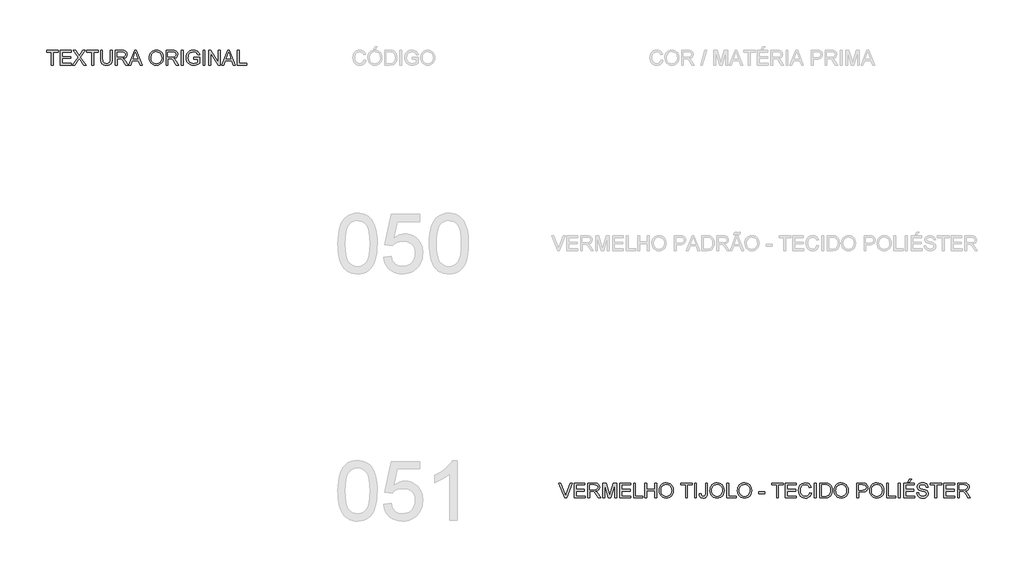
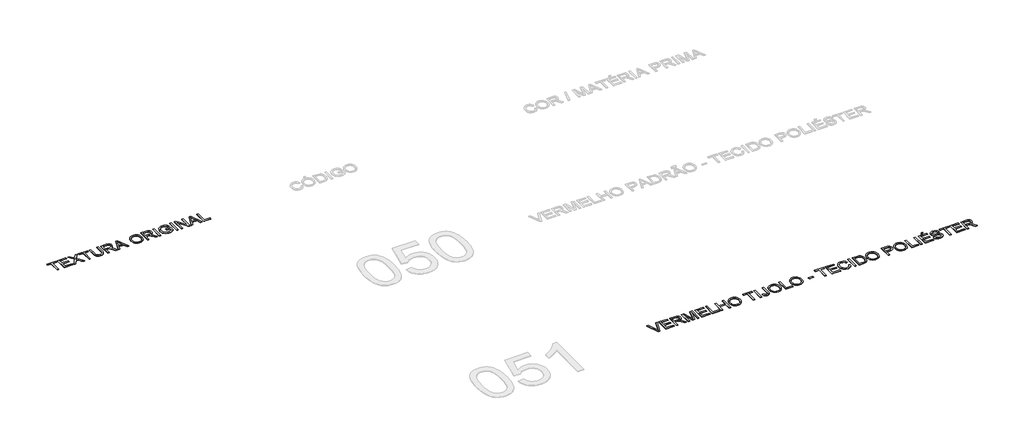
# One storey, part 24 of 35: 2 proxies.
"""IFC4 building model written with IfcOpenShell, lengths in millimetres."""

from ifc_helpers import new_model, si_unit, origin, origin_with_axes, place, context, project, spatial, polyline, outline, extrude, element, save

model = new_model("IFC4")

# Units and contexts
model_context = context("Model", 3, world=origin())
ifc_project = project(units=[si_unit("LENGTHUNIT", "METRE", prefix="MILLI")], contexts=[model_context])

# Site, building, storey
site = spatial("IfcSite", under=ifc_project)
building = spatial("IfcBuilding", under=site)
storey = spatial("IfcBuildingStorey", under=building, Name="Marelli - Linha YOU - Planta Baixa", Elevation=0.0)

# Proxies
placement = place(None, origin())
element("IfcBuildingElementProxy", 1, Name="300mm Arial", ObjectType="300mm Arial", at=placement, inside=storey, context=model_context, shape_type="SweptSolid", body=[
    extrude(outline(polyline([(-31021.6681618, -16280.5663201), (-31021.6681618, -16016.8685059), (-31120.5548421, -16016.8685059), (-31120.5548421, -15979.1973896), (-30885.1103652, -15979.1973896), (-30885.1103652, -16016.8685059), (-30983.9970455, -16016.8685059), (-30983.9970455, -16280.5663201), (-31021.6681618, -16280.5663201)])), origin_with_axes(), (0.0, 0.0, 1.0), 10.0),
    extrude(outline(polyline([(-30842.7303593, -16280.5663201), (-30842.7303593, -15979.1973896), (-30626.1214406, -15979.1973896), (-30626.1214406, -16016.8685059), (-30805.059243, -16016.8685059), (-30805.059243, -16106.3374072), (-30635.5392196, -16106.3374072), (-30635.5392196, -16144.0085235), (-30805.059243, -16144.0085235), (-30805.059243, -16242.8952038), (-30621.412551, -16242.8952038), (-30621.412551, -16280.5663201), (-30842.7303593, -16280.5663201)])), origin_with_axes(), (0.0, 0.0, 1.0), 10.0),
    extrude(outline(polyline([(-30597.8681033, -16280.5663201), (-30481.6909693, -16116.3437974), (-30579.0325452, -15979.1973896), (-30533.8566362, -15979.1973896), (-30479.0422189, -16056.3790322), (-30460.5745427, -16086.4717794), (-30438.9430814, -16055.8639974), (-30384.7172753, -15979.1973896), (-30338.8791787, -15979.1973896), (-30436.2207547, -16116.7852558), (-30320.0436206, -16280.5663201), (-30365.2195296, -16280.5663201), (-30442.6219014, -16171.3789439), (-30458.7351328, -16148.717413), (-30476.4670449, -16173.5862359), (-30552.0300067, -16280.5663201), (-30597.8681033, -16280.5663201)])), origin_with_axes(), (0.0, 0.0, 1.0), 10.0),
    extrude(outline(polyline([(-30207.0302717, -16280.5663201), (-30207.0302717, -16016.8685059), (-30305.916952, -16016.8685059), (-30305.916952, -15979.1973896), (-30070.4724751, -15979.1973896), (-30070.4724751, -16016.8685059), (-30169.3591554, -16016.8685059), (-30169.3591554, -16280.5663201), (-30207.0302717, -16280.5663201)])), origin_with_axes(), (0.0, 0.0, 1.0), 10.0),
    extrude(outline(polyline([(-29830.3191086, -15979.1973896), (-29792.6479923, -15979.1973896), (-29792.6479923, -16153.0584205), (-29795.2047722, -16193.7737604), (-29802.8751118, -16225.1265034), (-29817.2041155, -16249.3147446), (-29839.7368877, -16268.5365788), (-29870.5286107, -16281.0905519), (-29909.6344668, -16285.2752096), (-29947.8849972, -16281.6331779), (-29978.4651881, -16270.7070826), (-30001.3842364, -16252.8740029), (-30016.6513392, -16228.5110178), (-30025.2321867, -16195.8338995), (-30028.0924692, -16153.0584205), (-30028.0924692, -15979.1973896), (-29990.4213529, -15979.1973896), (-29990.4213529, -16151.7340454), (-29988.5635488, -16185.588386), (-29982.9901366, -16209.1604248), (-29972.8917758, -16225.4851883), (-29957.4591261, -16237.597703), (-29937.335981, -16245.1024957), (-29913.1661339, -16247.6040933), (-29874.8512241, -16242.6560805), (-29860.5084248, -16236.4710644), (-29849.375396, -16227.812042), (-29841.0382702, -16215.6351479), (-29835.0831804, -16198.8965171), (-29830.3191086, -16151.7340454), (-29830.3191086, -15979.1973896)])), origin_with_axes(), (0.0, 0.0, 1.0), 10.0),
    extrude(outline(polyline([(-29726.7235388, -16280.5663201), (-29726.7235388, -15979.1973896), (-29596.8611945, -15979.1973896), (-29561.9583902, -15981.2299376), (-29536.5653355, -15987.3275817), (-29518.0056888, -15998.5847708), (-29503.6031087, -16016.0959537), (-29494.3600736, -16037.8101885), (-29491.2790618, -16061.6765329), (-29496.3834245, -16091.3646099), (-29511.6965126, -16115.9759154), (-29523.2962917, -16126.0052983), (-29537.6781785, -16134.0205273), (-29574.7882748, -16144.0085235), (-29553.3775426, -16160.1217548), (-29522.843337, -16198.8965171), (-29472.5906565, -16280.5663201), (-29516.3686139, -16280.5663201), (-29555.5848346, -16218.0999573), (-29583.9117482, -16176.750021), (-29603.8141642, -16157.2154871), (-29621.7300173, -16150.0417882), (-29643.5822079, -16148.717413), (-29689.0524225, -16148.717413), (-29689.0524225, -16280.5663201), (-29726.7235388, -16280.5663201)]), holes=[polyline([(-29689.0524225, -16111.0462967), (-29604.7338692, -16111.0462967), (-29580.5180368, -16109.7127245), (-29561.7284639, -16105.7120078), (-29547.5834012, -16098.7774322), (-29537.3010994, -16088.6422832), (-29531.0379085, -16076.3826157), (-29528.9501782, -16063.0744845), (-29532.9325008, -16044.6987789), (-29544.8794685, -16029.8915286), (-29565.434875, -16020.1242616), (-29595.2425137, -16016.8685059), (-29689.0524225, -16016.8685059), (-29689.0524225, -16111.0462967)])]), origin_with_axes(), (0.0, 0.0, 1.0), 10.0),
    extrude(outline(polyline([(-29460.4505507, -16280.5663201), (-29340.1531382, -15979.1973896), (-29308.0738283, -15979.1973896), (-29187.7764158, -16280.5663201), (-29227.5812477, -16280.5663201), (-29262.0885789, -16186.3885293), (-29386.211964, -16186.3885293), (-29420.6457188, -16280.5663201), (-29460.4505507, -16280.5663201)]), holes=[polyline([(-29372.379601, -16148.717413), (-29275.8473655, -16148.717413), (-29302.9970567, -16074.6259792), (-29324.1134832, -16016.8685059), (-29342.875465, -16068.1512561), (-29372.379601, -16148.717413)])]), origin_with_axes(), (0.0, 0.0, 1.0), 10.0),
    extrude(outline(polyline([(-29043.9345557, -16133.8549804), (-29041.4237611, -16098.5061192), (-29033.8913772, -16067.213157), (-29021.3374042, -16039.9760937), (-29003.7618418, -16016.7949295), (-28982.2177525, -15998.2858666), (-28957.7581983, -15985.0651074), (-28930.3831794, -15977.1326519), (-28900.0926956, -15974.4885001), (-28860.5637752, -15979.454907), (-28825.118345, -15994.3541278), (-28795.6877854, -16018.1376988), (-28774.2034768, -16049.7571563), (-28761.0700896, -16087.68579), (-28756.6922939, -16130.3968896), (-28761.3000159, -16173.6782064), (-28775.1231818, -16212.140269), (-28797.3984366, -16243.8149087), (-28827.3624252, -16266.733957), (-28862.5043527, -16280.6398965), (-28900.3134248, -16285.2752096), (-28940.4493505, -16280.1524528), (-28976.0971158, -16264.7841825), (-29005.454099, -16240.5591531), (-29026.7176783, -16208.8661192), (-29039.6303364, -16172.3998164), (-29043.9345557, -16133.8549804)]), holes=[polyline([(-29006.2634394, -16134.2228624), (-29004.3803434, -16159.1974513), (-28998.7310556, -16181.3669401), (-28989.3155757, -16200.7313286), (-28976.133904, -16217.2906169), (-28960.1103438, -16230.5527628), (-28942.1691988, -16240.0257242), (-28922.3104688, -16245.709501), (-28900.534154, -16247.6040933), (-28878.3853586, -16245.6911069), (-28858.2921039, -16239.9521478), (-28840.2543898, -16230.3872159), (-28824.2722164, -16216.9963113), (-28811.1871137, -16200.0875351), (-28801.8406117, -16179.9689885), (-28796.2327106, -16156.6406715), (-28794.3634102, -16130.102584), (-28797.5639835, -16096.7540812), (-28807.1657036, -16067.9305269), (-28822.9202501, -16044.358488), (-28844.5793025, -16026.7645316), (-28870.7081212, -16015.8108452), (-28899.8719664, -16012.1596164), (-28920.8918239, -16013.9185522), (-28940.3941682, -16019.1953595), (-28958.3789992, -16027.9900385), (-28974.846317, -16040.302589), (-28988.5913081, -16056.7262208), (-28998.4091588, -16077.8541437), (-29004.2998693, -16103.6863575), (-29006.2634394, -16134.2228624)])]), origin_with_axes(), (0.0, 0.0, 1.0), 10.0),
    extrude(outline(polyline([(-28704.894509, -16280.5663201), (-28704.894509, -15979.1973896), (-28575.0321647, -15979.1973896), (-28540.1293604, -15981.2299376), (-28514.7363057, -15987.3275817), (-28496.176659, -15998.5847708), (-28481.7740789, -16016.0959537), (-28472.5310438, -16037.8101885), (-28469.450032, -16061.6765329), (-28474.5543947, -16091.3646099), (-28489.8674828, -16115.9759154), (-28501.4672619, -16126.0052983), (-28515.8491487, -16134.0205273), (-28552.959245, -16144.0085235), (-28531.5485128, -16160.1217548), (-28501.0143072, -16198.8965171), (-28450.7616267, -16280.5663201), (-28494.5395841, -16280.5663201), (-28533.7558048, -16218.0999573), (-28562.0827184, -16176.750021), (-28581.9851344, -16157.2154871), (-28599.9009875, -16150.0417882), (-28621.753178, -16148.717413), (-28667.2233927, -16148.717413), (-28667.2233927, -16280.5663201), (-28704.894509, -16280.5663201)]), holes=[polyline([(-28667.2233927, -16111.0462967), (-28582.9048394, -16111.0462967), (-28558.689007, -16109.7127245), (-28539.8994341, -16105.7120078), (-28525.7543714, -16098.7774322), (-28515.4720696, -16088.6422832), (-28509.2088787, -16076.3826157), (-28507.1211484, -16063.0744845), (-28511.1034709, -16044.6987789), (-28523.0504387, -16029.8915286), (-28543.6058452, -16020.1242616), (-28573.4134839, -16016.8685059), (-28667.2233927, -16016.8685059), (-28667.2233927, -16111.0462967)])]), origin_with_axes(), (0.0, 0.0, 1.0), 10.0),
    extrude(outline(polyline([(-28398.816689, -16280.5663201), (-28398.816689, -15979.1973896), (-28361.1455727, -15979.1973896), (-28361.1455727, -16280.5663201), (-28398.816689, -16280.5663201)])), origin_with_axes(), (0.0, 0.0, 1.0), 10.0),
    extrude(outline(polyline([(-28144.5366539, -16162.8440816), (-28144.5366539, -16125.1729653), (-28022.1055259, -16125.1729653), (-28022.1055259, -16237.8184322), (-28051.8579823, -16258.5117945), (-28082.5485377, -16273.355833), (-28114.1036159, -16282.2953654), (-28146.4496403, -16285.2752096), (-28188.7100845, -16280.5387289), (-28226.9054326, -16266.3292869), (-28258.6352547, -16243.1435241), (-28281.4991207, -16211.4780814), (-28295.3222867, -16173.4942654), (-28299.9300087, -16131.3533828), (-28295.3406808, -16088.9089976), (-28281.5726971, -16049.4260625), (-28259.1962748, -16016.3074859), (-28228.7816308, -15992.9561762), (-28191.7359139, -15979.1054191), (-28149.4662726, -15974.4885001), (-28118.4354263, -15977.1648416), (-28090.531577, -15985.1938661), (-28067.0331146, -15997.9961596), (-28049.218429, -16014.9923077), (-28036.0390565, -16037.0008481), (-28026.4465335, -16064.8403181), (-28061.1745938, -16074.6259792), (-28068.9277068, -16054.7695485), (-28078.354683, -16039.7875542), (-28090.8258826, -16028.493577), (-28107.7116662, -16019.7011973), (-28127.8440084, -16014.0450116), (-28150.0548838, -16012.1596164), (-28176.0549438, -16014.1921644), (-28198.2842134, -16020.2898085), (-28216.6599191, -16029.6891935), (-28231.0992874, -16041.6269642), (-28250.4866685, -16070.6528536), (-28259.3158364, -16099.0901318), (-28262.2588924, -16129.8082784), (-28258.7180282, -16165.8331228), (-28248.0954355, -16195.4752146), (-28230.7130113, -16218.5230216), (-28206.8926521, -16234.7650117), (-28179.0163939, -16244.3943229), (-28149.4662726, -16247.6040933), (-28123.3742421, -16245.1852692), (-28097.9260051, -16237.9287968), (-28075.8254943, -16227.9316036), (-28059.7766422, -16217.2906169), (-28059.7766422, -16162.8440816), (-28144.5366539, -16162.8440816)])), origin_with_axes(), (0.0, 0.0, 1.0), 10.0),
    extrude(outline(polyline([(-27956.1810724, -16280.5663201), (-27956.1810724, -15979.1973896), (-27918.5099561, -15979.1973896), (-27918.5099561, -16280.5663201), (-27956.1810724, -16280.5663201)])), origin_with_axes(), (0.0, 0.0, 1.0), 10.0),
    extrude(outline(polyline([(-27843.1677235, -16280.5663201), (-27843.1677235, -15979.1973896), (-27802.8478568, -15979.1973896), (-27645.3943628, -16217.9528045), (-27645.3943628, -15979.1973896), (-27607.7232465, -15979.1973896), (-27607.7232465, -16280.5663201), (-27648.0431132, -16280.5663201), (-27805.4966072, -16041.7373288), (-27805.4966072, -16280.5663201), (-27843.1677235, -16280.5663201)])), origin_with_axes(), (0.0, 0.0, 1.0), 10.0),
    extrude(outline(polyline([(-27576.8947353, -16280.5663201), (-27456.5973229, -15979.1973896), (-27424.5180129, -15979.1973896), (-27304.2206005, -16280.5663201), (-27344.0254324, -16280.5663201), (-27378.5327635, -16186.3885293), (-27502.6561487, -16186.3885293), (-27537.0899035, -16280.5663201), (-27576.8947353, -16280.5663201)]), holes=[polyline([(-27488.8237857, -16148.717413), (-27392.2915502, -16148.717413), (-27419.4412414, -16074.6259792), (-27440.5576679, -16016.8685059), (-27459.3196497, -16068.1512561), (-27488.8237857, -16148.717413)])]), origin_with_axes(), (0.0, 0.0, 1.0), 10.0),
    extrude(outline(polyline([(-27263.9743103, -16280.5663201), (-27263.9743103, -15979.1973896), (-27226.3031939, -15979.1973896), (-27226.3031939, -16242.8952038), (-27075.6187287, -16242.8952038), (-27075.6187287, -16280.5663201), (-27263.9743103, -16280.5663201)])), origin_with_axes(), (0.0, 0.0, 1.0), 10.0),
])
element("IfcBuildingElementProxy", 2, Name="300mm Arial", ObjectType="300mm Arial", at=placement, inside=storey, context=model_context, shape_type="SweptSolid", body=[
    extrude(outline(polyline([(-20641.1099124, -25030.5663201), (-20761.0394428, -24729.1973896), (-20720.7195762, -24729.1973896), (-20640.4477248, -24946.3213432), (-20624.1873406, -24995.2496485), (-20608.1476856, -24946.3213432), (-20527.6551051, -24729.1973896), (-20487.3352384, -24729.1973896), (-20602.1879973, -25030.5663201), (-20641.1099124, -25030.5663201)])), origin_with_axes(), (0.0, 0.0, 1.0), 10.0),
    extrude(outline(polyline([(-20452.3128725, -25030.5663201), (-20452.3128725, -24729.1973896), (-20235.7039537, -24729.1973896), (-20235.7039537, -24766.8685059), (-20414.6417562, -24766.8685059), (-20414.6417562, -24856.3374072), (-20245.1217328, -24856.3374072), (-20245.1217328, -24894.0085235), (-20414.6417562, -24894.0085235), (-20414.6417562, -24992.8952038), (-20230.9950642, -24992.8952038), (-20230.9950642, -25030.5663201), (-20452.3128725, -25030.5663201)])), origin_with_axes(), (0.0, 0.0, 1.0), 10.0),
    extrude(outline(polyline([(-20174.4883897, -25030.5663201), (-20174.4883897, -24729.1973896), (-20044.6260454, -24729.1973896), (-20009.7232411, -24731.2299376), (-19984.3301864, -24737.3275817), (-19965.7705398, -24748.5847708), (-19951.3679596, -24766.0959537), (-19942.1249245, -24787.8101885), (-19939.0439128, -24811.6765329), (-19944.1482755, -24841.3646099), (-19959.4613635, -24865.9759154), (-19971.0611427, -24876.0052983), (-19985.4430294, -24884.0205273), (-20022.5531257, -24894.0085235), (-20001.1423936, -24910.1217548), (-19970.608188, -24948.8965171), (-19920.3555074, -25030.5663201), (-19964.1334649, -25030.5663201), (-20003.3496856, -24968.0999573), (-20031.6765992, -24926.750021), (-20051.5790151, -24907.2154871), (-20069.4948683, -24900.0417882), (-20091.3470588, -24898.717413), (-20136.8172734, -24898.717413), (-20136.8172734, -25030.5663201), (-20174.4883897, -25030.5663201)]), holes=[polyline([(-20136.8172734, -24861.0462967), (-20052.4987201, -24861.0462967), (-20028.2828878, -24859.7127245), (-20009.4933149, -24855.7120078), (-19995.3482522, -24848.7774322), (-19985.0659504, -24838.6422832), (-19978.8027594, -24826.3826157), (-19976.7150291, -24813.0744845), (-19980.6973517, -24794.6987789), (-19992.6443195, -24779.8915286), (-20013.199726, -24770.1242616), (-20043.0073646, -24766.8685059), (-20136.8172734, -24766.8685059), (-20136.8172734, -24861.0462967)])]), origin_with_axes(), (0.0, 0.0, 1.0), 10.0),
    extrude(outline(polyline([(-19873.1194593, -25030.5663201), (-19873.1194593, -24729.1973896), (-19808.2986517, -24729.1973896), (-19746.6416293, -24941.6124536), (-19734.2072179, -24985.9790223), (-19720.7427369, -24937.9336337), (-19660.1157841, -24729.1973896), (-19595.2949765, -24729.1973896), (-19595.2949765, -25030.5663201), (-19632.9660928, -25030.5663201), (-19632.9660928, -24766.8685059), (-19708.6762074, -25030.5663201), (-19759.7382284, -25030.5663201), (-19835.448343, -24766.8685059), (-19835.448343, -25030.5663201), (-19873.1194593, -25030.5663201)])), origin_with_axes(), (0.0, 0.0, 1.0), 10.0),
    extrude(outline(polyline([(-19529.370523, -25030.5663201), (-19529.370523, -24729.1973896), (-19312.7616042, -24729.1973896), (-19312.7616042, -24766.8685059), (-19491.6994067, -24766.8685059), (-19491.6994067, -24856.3374072), (-19322.1793833, -24856.3374072), (-19322.1793833, -24894.0085235), (-19491.6994067, -24894.0085235), (-19491.6994067, -24992.8952038), (-19308.0527147, -24992.8952038), (-19308.0527147, -25030.5663201), (-19529.370523, -25030.5663201)])), origin_with_axes(), (0.0, 0.0, 1.0), 10.0),
    extrude(outline(polyline([(-19251.5460402, -25030.5663201), (-19251.5460402, -24729.1973896), (-19213.8749239, -24729.1973896), (-19213.8749239, -24992.8952038), (-19063.1904587, -24992.8952038), (-19063.1904587, -25030.5663201), (-19251.5460402, -25030.5663201)])), origin_with_axes(), (0.0, 0.0, 1.0), 10.0),
    extrude(outline(polyline([(-19020.8104528, -25030.5663201), (-19020.8104528, -24729.1973896), (-18983.1393365, -24729.1973896), (-18983.1393365, -24851.6285176), (-18823.0370922, -24851.6285176), (-18823.0370922, -24729.1973896), (-18785.3659759, -24729.1973896), (-18785.3659759, -25030.5663201), (-18823.0370922, -25030.5663201), (-18823.0370922, -24889.2996339), (-18983.1393365, -24889.2996339), (-18983.1393365, -25030.5663201), (-19020.8104528, -25030.5663201)])), origin_with_axes(), (0.0, 0.0, 1.0), 10.0),
    extrude(outline(polyline([(-18733.568191, -24883.8549804), (-18731.0573964, -24848.5061192), (-18723.5250125, -24817.213157), (-18710.9710395, -24789.9760937), (-18693.3954771, -24766.7949295), (-18671.8513878, -24748.2858666), (-18647.3918336, -24735.0651074), (-18620.0168147, -24727.1326519), (-18589.7263309, -24724.4885001), (-18550.1974105, -24729.454907), (-18514.7519803, -24744.3541278), (-18485.3214207, -24768.1376988), (-18463.8371121, -24799.7571563), (-18450.7037249, -24837.68579), (-18446.3259292, -24880.3968896), (-18450.9336512, -24923.6782064), (-18464.7568171, -24962.140269), (-18487.0320719, -24993.8149087), (-18516.9960604, -25016.733957), (-18552.137988, -25030.6398965), (-18589.9470601, -25035.2752096), (-18630.0829858, -25030.1524528), (-18665.7307511, -25014.7841825), (-18695.0877343, -24990.5591531), (-18716.3513136, -24958.8661192), (-18729.2639717, -24922.3998164), (-18733.568191, -24883.8549804)]), holes=[polyline([(-18695.8970747, -24884.2228624), (-18694.0139787, -24909.1974513), (-18688.3646908, -24931.3669401), (-18678.949211, -24950.7313286), (-18665.7675393, -24967.2906169), (-18649.7439791, -24980.5527628), (-18631.8028341, -24990.0257242), (-18611.9441041, -24995.709501), (-18590.1677893, -24997.6040933), (-18568.0189939, -24995.6911069), (-18547.9257392, -24989.9521478), (-18529.8880251, -24980.3872159), (-18513.9058517, -24966.9963113), (-18500.820749, -24950.0875351), (-18491.474247, -24929.9689885), (-18485.8663459, -24906.6406715), (-18483.9970455, -24880.102584), (-18487.1976188, -24846.7540812), (-18496.7993389, -24817.9305269), (-18512.5538854, -24794.358488), (-18534.2129378, -24776.7645316), (-18560.3417565, -24765.8108452), (-18589.5056017, -24762.1596164), (-18610.5254592, -24763.9185522), (-18630.0278035, -24769.1953595), (-18648.0126345, -24777.9900385), (-18664.4799523, -24790.302589), (-18678.2249434, -24806.7262208), (-18688.0427941, -24827.8541437), (-18693.9335046, -24853.6863575), (-18695.8970747, -24884.2228624)])]), origin_with_axes(), (0.0, 0.0, 1.0), 10.0),
    extrude(outline(polyline([(-18201.4636732, -25030.5663201), (-18201.4636732, -24766.8685059), (-18300.3503535, -24766.8685059), (-18300.3503535, -24729.1973896), (-18064.9058766, -24729.1973896), (-18064.9058766, -24766.8685059), (-18163.7925569, -24766.8685059), (-18163.7925569, -25030.5663201), (-18201.4636732, -25030.5663201)])), origin_with_axes(), (0.0, 0.0, 1.0), 10.0),
    extrude(outline(polyline([(-18017.8169812, -25030.5663201), (-18017.8169812, -24729.1973896), (-17980.1458649, -24729.1973896), (-17980.1458649, -25030.5663201), (-18017.8169812, -25030.5663201)])), origin_with_axes(), (0.0, 0.0, 1.0), 10.0),
    extrude(outline(polyline([(-17923.6391904, -24945.9534612), (-17885.9680741, -24941.0974188), (-17882.0501309, -24968.4862334), (-17873.0922043, -24985.6111403), (-17859.4069941, -24994.605855), (-17841.3071999, -24997.6040933), (-17827.3920634, -24995.9026391), (-17815.518672, -24990.7982764), (-17806.3584104, -24982.7600548), (-17800.582663, -24972.2570238), (-17796.4991729, -24934.9170013), (-17796.4991729, -24729.1973896), (-17758.8280566, -24729.1973896), (-17758.8280566, -24934.2548137), (-17761.0997279, -24967.7964546), (-17767.9147419, -24992.7848392), (-17779.6685716, -25011.0409832), (-17796.7566903, -25024.3859025), (-17818.2134077, -25032.5528828), (-17843.0730335, -25035.2752096), (-17877.8930643, -25029.6558121), (-17891.8403905, -25022.6315653), (-17903.4792571, -25012.7976197), (-17912.6027306, -25000.1907636), (-17919.0038773, -24984.8477851), (-17923.6391904, -24945.9534612)])), origin_with_axes(), (0.0, 0.0, 1.0), 10.0),
    extrude(outline(polyline([(-17707.0302717, -24883.8549804), (-17704.519477, -24848.5061192), (-17696.9870932, -24817.213157), (-17684.4331201, -24789.9760937), (-17666.8575578, -24766.7949295), (-17645.3134684, -24748.2858666), (-17620.8539143, -24735.0651074), (-17593.4788953, -24727.1326519), (-17563.1884116, -24724.4885001), (-17523.6594912, -24729.454907), (-17488.2140609, -24744.3541278), (-17458.7835013, -24768.1376988), (-17437.2991928, -24799.7571563), (-17424.1658056, -24837.68579), (-17419.7880098, -24880.3968896), (-17424.3957318, -24923.6782064), (-17438.2188978, -24962.140269), (-17460.4941526, -24993.8149087), (-17490.4581411, -25016.733957), (-17525.6000687, -25030.6398965), (-17563.4091407, -25035.2752096), (-17603.5450664, -25030.1524528), (-17639.1928318, -25014.7841825), (-17668.549815, -24990.5591531), (-17689.8133943, -24958.8661192), (-17702.7260523, -24922.3998164), (-17707.0302717, -24883.8549804)]), holes=[polyline([(-17669.3591554, -24884.2228624), (-17667.4760594, -24909.1974513), (-17661.8267715, -24931.3669401), (-17652.4112917, -24950.7313286), (-17639.22962, -24967.2906169), (-17623.2060598, -24980.5527628), (-17605.2649147, -24990.0257242), (-17585.4061848, -24995.709501), (-17563.6298699, -24997.6040933), (-17541.4810746, -24995.6911069), (-17521.3878198, -24989.9521478), (-17503.3501058, -24980.3872159), (-17487.3679323, -24966.9963113), (-17474.2828296, -24950.0875351), (-17464.9363277, -24929.9689885), (-17459.3284265, -24906.6406715), (-17457.4591261, -24880.102584), (-17460.6596995, -24846.7540812), (-17470.2614196, -24817.9305269), (-17486.015966, -24794.358488), (-17507.6750185, -24776.7645316), (-17533.8038372, -24765.8108452), (-17562.9676824, -24762.1596164), (-17583.9875399, -24763.9185522), (-17603.4898841, -24769.1953595), (-17621.4747152, -24777.9900385), (-17637.942033, -24790.302589), (-17651.687024, -24806.7262208), (-17661.5048748, -24827.8541437), (-17667.3955852, -24853.6863575), (-17669.3591554, -24884.2228624)])]), origin_with_axes(), (0.0, 0.0, 1.0), 10.0),
    extrude(outline(polyline([(-17367.9902249, -25030.5663201), (-17367.9902249, -24729.1973896), (-17330.3191086, -24729.1973896), (-17330.3191086, -24992.8952038), (-17179.6346434, -24992.8952038), (-17179.6346434, -25030.5663201), (-17367.9902249, -25030.5663201)])), origin_with_axes(), (0.0, 0.0, 1.0), 10.0),
    extrude(outline(polyline([(-17151.3813061, -24883.8549804), (-17148.8705115, -24848.5061192), (-17141.3381277, -24817.213157), (-17128.7841546, -24789.9760937), (-17111.2085923, -24766.7949295), (-17089.6645029, -24748.2858666), (-17065.2049488, -24735.0651074), (-17037.8299298, -24727.1326519), (-17007.539446, -24724.4885001), (-16968.0105257, -24729.454907), (-16932.5650954, -24744.3541278), (-16903.1345358, -24768.1376988), (-16881.6502273, -24799.7571563), (-16868.5168401, -24837.68579), (-16864.1390443, -24880.3968896), (-16868.7467663, -24923.6782064), (-16882.5699323, -24962.140269), (-16904.8451871, -24993.8149087), (-16934.8091756, -25016.733957), (-16969.9511032, -25030.6398965), (-17007.7601752, -25035.2752096), (-17047.8961009, -25030.1524528), (-17083.5438662, -25014.7841825), (-17112.9008495, -24990.5591531), (-17134.1644288, -24958.8661192), (-17147.0770868, -24922.3998164), (-17151.3813061, -24883.8549804)]), holes=[polyline([(-17113.7101898, -24884.2228624), (-17111.8270939, -24909.1974513), (-17106.177806, -24931.3669401), (-17096.7623262, -24950.7313286), (-17083.5806544, -24967.2906169), (-17067.5570943, -24980.5527628), (-17049.6159492, -24990.0257242), (-17029.7572193, -24995.709501), (-17007.9809044, -24997.6040933), (-16985.8321091, -24995.6911069), (-16965.7388543, -24989.9521478), (-16947.7011403, -24980.3872159), (-16931.7189668, -24966.9963113), (-16918.6338641, -24950.0875351), (-16909.2873622, -24929.9689885), (-16903.679461, -24906.6406715), (-16901.8101606, -24880.102584), (-16905.010734, -24846.7540812), (-16914.6124541, -24817.9305269), (-16930.3670005, -24794.358488), (-16952.026053, -24776.7645316), (-16978.1548717, -24765.8108452), (-17007.3187168, -24762.1596164), (-17028.3385743, -24763.9185522), (-17047.8409186, -24769.1953595), (-17065.8257496, -24777.9900385), (-17082.2930675, -24790.302589), (-17096.0380585, -24806.7262208), (-17105.8559092, -24827.8541437), (-17111.7466197, -24853.6863575), (-17113.7101898, -24884.2228624)])]), origin_with_axes(), (0.0, 0.0, 1.0), 10.0),
    extrude(outline(polyline([(-16718.1634686, -24941.0974188), (-16718.1634686, -24903.4263025), (-16600.4412302, -24903.4263025), (-16600.4412302, -24941.0974188), (-16718.1634686, -24941.0974188)])), origin_with_axes(), (0.0, 0.0, 1.0), 10.0),
    extrude(outline(polyline([(-16360.2878637, -25030.5663201), (-16360.2878637, -24766.8685059), (-16459.174544, -24766.8685059), (-16459.174544, -24729.1973896), (-16223.7300671, -24729.1973896), (-16223.7300671, -24766.8685059), (-16322.6167474, -24766.8685059), (-16322.6167474, -25030.5663201), (-16360.2878637, -25030.5663201)])), origin_with_axes(), (0.0, 0.0, 1.0), 10.0),
    extrude(outline(polyline([(-16181.3500613, -25030.5663201), (-16181.3500613, -24729.1973896), (-15964.7411425, -24729.1973896), (-15964.7411425, -24766.8685059), (-16143.678945, -24766.8685059), (-16143.678945, -24856.3374072), (-15974.1589216, -24856.3374072), (-15974.1589216, -24894.0085235), (-16143.678945, -24894.0085235), (-16143.678945, -24992.8952038), (-15960.032253, -24992.8952038), (-15960.032253, -25030.5663201), (-16181.3500613, -25030.5663201)])), origin_with_axes(), (0.0, 0.0, 1.0), 10.0),
    extrude(outline(polyline([(-15691.6255493, -24923.4390831), (-15653.954433, -24933.1511677), (-15661.4086419, -24956.5783531), (-15671.3368573, -24977.0486868), (-15683.739079, -24994.5621691), (-15698.6153072, -25009.1187997), (-15715.6298495, -25020.5622291), (-15734.4470135, -25028.7361071), (-15755.0667994, -25033.640434), (-15777.489207, -25035.2752096), (-15821.1843909, -25030.3271968), (-15855.8848601, -25015.4831583), (-15882.4827284, -24991.2581289), (-15901.8701095, -24958.1671434), (-15913.7067127, -24919.2636224), (-15917.6522471, -24877.6009865), (-15913.1916779, -24833.6574821), (-15899.8099704, -24795.7104543), (-15878.2061002, -24764.9647166), (-15849.0790432, -24742.6250824), (-15814.5349239, -24729.0226457), (-15776.6798666, -24724.4885001), (-15735.3759156, -24730.3562179), (-15717.4071794, -24737.6908652), (-15701.2272694, -24747.9593714), (-15687.1029, -24760.8904235), (-15675.3007858, -24776.2127086), (-15658.6633225, -24814.0309777), (-15696.3344388, -24823.0072984), (-15709.3942497, -24795.5357104), (-15727.2365264, -24776.6909552), (-15750.0819983, -24765.7924511), (-15778.1513946, -24762.1596164), (-15810.506616, -24766.1879242), (-15837.0860902, -24778.2728478), (-15857.2552206, -24797.1451941), (-15870.3794107, -24821.5357704), (-15877.5807008, -24849.1085259), (-15879.9811308, -24877.5274101), (-15877.1392424, -24912.3290468), (-15868.6135772, -24942.421794), (-15854.0822384, -24966.6560205), (-15833.2233292, -24983.8820949), (-15808.2165506, -24994.1735937), (-15781.2416033, -24997.6040933), (-15749.7968898, -24992.931992), (-15723.5944947, -24978.9156879), (-15703.8116404, -24955.702334), (-15691.6255493, -24923.4390831)])), origin_with_axes(), (0.0, 0.0, 1.0), 10.0),
    extrude(outline(polyline([(-15597.4477585, -25030.5663201), (-15597.4477585, -24729.1973896), (-15559.7766422, -24729.1973896), (-15559.7766422, -25030.5663201), (-15597.4477585, -25030.5663201)])), origin_with_axes(), (0.0, 0.0, 1.0), 10.0),
    extrude(outline(polyline([(-15484.4344096, -25030.5663201), (-15484.4344096, -24729.1973896), (-15380.4709578, -24729.1973896), (-15326.6866101, -24733.5383972), (-15302.6639158, -24741.9077126), (-15282.3936179, -24755.0962821), (-15261.5531028, -24778.0521186), (-15246.7090643, -24806.5997614), (-15237.8247141, -24840.1873876), (-15234.8632641, -24878.2631741), (-15236.868221, -24910.6091985), (-15242.8830916, -24939.0740679), (-15252.0433533, -24963.3082943), (-15263.4844833, -24982.9623899), (-15276.6546587, -24998.477813), (-15291.0020565, -25010.2960221), (-15307.4739729, -25019.0608107), (-15327.0177039, -25025.4159721), (-15375.4677626, -25030.5663201), (-15484.4344096, -25030.5663201)]), holes=[polyline([(-15446.7632933, -24992.8952038), (-15380.1030758, -24992.8952038), (-15352.5303202, -24991.5340404), (-15331.6162288, -24987.4505502), (-15315.8340912, -24980.8838566), (-15303.6571972, -24972.0730828), (-15290.5697952, -24955.7667134), (-15280.7381489, -24934.6594839), (-15274.5853225, -24908.6594239), (-15272.5343804, -24877.6745629), (-15276.5534912, -24836.6189322), (-15288.6108236, -24806.3054558), (-15306.4255092, -24785.4833349), (-15327.7166797, -24772.9017706), (-15349.3849292, -24768.3768221), (-15381.1331454, -24766.8685059), (-15446.7632933, -24766.8685059), (-15446.7632933, -24992.8952038)])]), origin_with_axes(), (0.0, 0.0, 1.0), 10.0),
    extrude(outline(polyline([(-15197.1921478, -24883.8549804), (-15194.6813532, -24848.5061192), (-15187.1489693, -24817.213157), (-15174.5949962, -24789.9760937), (-15157.0194339, -24766.7949295), (-15135.4753446, -24748.2858666), (-15111.0157904, -24735.0651074), (-15083.6407714, -24727.1326519), (-15053.3502877, -24724.4885001), (-15013.8213673, -24729.454907), (-14978.375937, -24744.3541278), (-14948.9453774, -24768.1376988), (-14927.4610689, -24799.7571563), (-14914.3276817, -24837.68579), (-14909.9498859, -24880.3968896), (-14914.5576079, -24923.6782064), (-14928.3807739, -24962.140269), (-14950.6560287, -24993.8149087), (-14980.6200172, -25016.733957), (-15015.7619448, -25030.6398965), (-15053.5710169, -25035.2752096), (-15093.7069425, -25030.1524528), (-15129.3547079, -25014.7841825), (-15158.7116911, -24990.5591531), (-15179.9752704, -24958.8661192), (-15192.8879284, -24922.3998164), (-15197.1921478, -24883.8549804)]), holes=[polyline([(-15159.5210315, -24884.2228624), (-15157.6379355, -24909.1974513), (-15151.9886476, -24931.3669401), (-15142.5731678, -24950.7313286), (-15129.3914961, -24967.2906169), (-15113.3679359, -24980.5527628), (-15095.4267909, -24990.0257242), (-15075.5680609, -24995.709501), (-15053.7917461, -24997.6040933), (-15031.6429507, -24995.6911069), (-15011.549696, -24989.9521478), (-14993.5119819, -24980.3872159), (-14977.5298085, -24966.9963113), (-14964.4447057, -24950.0875351), (-14955.0982038, -24929.9689885), (-14949.4903026, -24906.6406715), (-14947.6210022, -24880.102584), (-14950.8215756, -24846.7540812), (-14960.4232957, -24817.9305269), (-14976.1778421, -24794.358488), (-14997.8368946, -24776.7645316), (-15023.9657133, -24765.8108452), (-15053.1295585, -24762.1596164), (-15074.149416, -24763.9185522), (-15093.6517602, -24769.1953595), (-15111.6365913, -24777.9900385), (-15128.1039091, -24790.302589), (-15141.8489001, -24806.7262208), (-15151.6667509, -24827.8541437), (-15157.5574613, -24853.6863575), (-15159.5210315, -24884.2228624)])]), origin_with_axes(), (0.0, 0.0, 1.0), 10.0),
    extrude(outline(polyline([(-14740.4298626, -25030.5663201), (-14740.4298626, -24729.1973896), (-14628.7408888, -24729.1973896), (-14583.7121326, -24732.0668692), (-14563.6349727, -24737.4287493), (-14547.1078741, -24746.1567496), (-14533.7997429, -24758.6463433), (-14523.3794854, -24775.2930036), (-14516.6472449, -24794.9287051), (-14514.4031647, -24816.3854225), (-14515.9183787, -24834.8852883), (-14520.4640206, -24851.9044291), (-14528.0400904, -24867.4428449), (-14538.6465882, -24881.5005356), (-14553.2078174, -24893.1531978), (-14572.6480816, -24901.476528), (-14596.9673808, -24906.470526), (-14626.1657149, -24908.1351921), (-14702.7587463, -24908.1351921), (-14702.7587463, -25030.5663201), (-14740.4298626, -25030.5663201)]), holes=[polyline([(-14702.7587463, -24870.4640758), (-14623.9584229, -24870.4640758), (-14590.5547377, -24867.005985), (-14568.481818, -24856.6317127), (-14556.1761653, -24839.9850525), (-14552.074281, -24817.7097977), (-14554.4931051, -24800.7872259), (-14561.7495775, -24786.5134045), (-14572.9423872, -24775.7712502), (-14587.1702234, -24769.4436799), (-14624.8413397, -24766.8685059), (-14702.7587463, -24766.8685059), (-14702.7587463, -24870.4640758)])]), origin_with_axes(), (0.0, 0.0, 1.0), 10.0),
    extrude(outline(polyline([(-14476.7320484, -24883.8549804), (-14474.2212538, -24848.5061192), (-14466.6888699, -24817.213157), (-14454.1348969, -24789.9760937), (-14436.5593345, -24766.7949295), (-14415.0152452, -24748.2858666), (-14390.555691, -24735.0651074), (-14363.1806721, -24727.1326519), (-14332.8901883, -24724.4885001), (-14293.3612679, -24729.454907), (-14257.9158377, -24744.3541278), (-14228.4852781, -24768.1376988), (-14207.0009696, -24799.7571563), (-14193.8675823, -24837.68579), (-14189.4897866, -24880.3968896), (-14194.0975086, -24923.6782064), (-14207.9206745, -24962.140269), (-14230.1959293, -24993.8149087), (-14260.1599179, -25016.733957), (-14295.3018454, -25030.6398965), (-14333.1109175, -25035.2752096), (-14373.2468432, -25030.1524528), (-14408.8946085, -25014.7841825), (-14438.2515917, -24990.5591531), (-14459.515171, -24958.8661192), (-14472.4278291, -24922.3998164), (-14476.7320484, -24883.8549804)]), holes=[polyline([(-14439.0609321, -24884.2228624), (-14437.1778361, -24909.1974513), (-14431.5285483, -24931.3669401), (-14422.1130684, -24950.7313286), (-14408.9313967, -24967.2906169), (-14392.9078366, -24980.5527628), (-14374.9666915, -24990.0257242), (-14355.1079615, -24995.709501), (-14333.3316467, -24997.6040933), (-14311.1828513, -24995.6911069), (-14291.0895966, -24989.9521478), (-14273.0518825, -24980.3872159), (-14257.0697091, -24966.9963113), (-14243.9846064, -24950.0875351), (-14234.6381044, -24929.9689885), (-14229.0302033, -24906.6406715), (-14227.1609029, -24880.102584), (-14230.3614762, -24846.7540812), (-14239.9631963, -24817.9305269), (-14255.7177428, -24794.358488), (-14277.3767952, -24776.7645316), (-14303.5056139, -24765.8108452), (-14332.6694591, -24762.1596164), (-14353.6893166, -24763.9185522), (-14373.1916609, -24769.1953595), (-14391.1764919, -24777.9900385), (-14407.6438097, -24790.302589), (-14421.3888008, -24806.7262208), (-14431.2066515, -24827.8541437), (-14437.097362, -24853.6863575), (-14439.0609321, -24884.2228624)])]), origin_with_axes(), (0.0, 0.0, 1.0), 10.0),
    extrude(outline(polyline([(-14137.6920017, -25030.5663201), (-14137.6920017, -24729.1973896), (-14100.0208854, -24729.1973896), (-14100.0208854, -24992.8952038), (-13949.3364201, -24992.8952038), (-13949.3364201, -25030.5663201), (-14137.6920017, -25030.5663201)])), origin_with_axes(), (0.0, 0.0, 1.0), 10.0),
    extrude(outline(polyline([(-13902.2475247, -25030.5663201), (-13902.2475247, -24729.1973896), (-13864.5764084, -24729.1973896), (-13864.5764084, -25030.5663201), (-13902.2475247, -25030.5663201)])), origin_with_axes(), (0.0, 0.0, 1.0), 10.0),
    extrude(outline(polyline([(-13789.2341758, -25030.5663201), (-13789.2341758, -24729.1973896), (-13572.6252571, -24729.1973896), (-13572.6252571, -24766.8685059), (-13751.5630595, -24766.8685059), (-13751.5630595, -24856.3374072), (-13582.0430361, -24856.3374072), (-13582.0430361, -24894.0085235), (-13751.5630595, -24894.0085235), (-13751.5630595, -24992.8952038), (-13567.9163675, -24992.8952038), (-13567.9163675, -25030.5663201), (-13789.2341758, -25030.5663201)])), origin_with_axes(), (0.0, 0.0, 1.0), 10.0),
    extrude(outline(polyline([(-13704.4741641, -24710.3618315), (-13676.2208269, -24653.855157), (-13629.1319315, -24653.855157), (-13676.2208269, -24710.3618315), (-13704.4741641, -24710.3618315)])), origin_with_axes(), (0.0, 0.0, 1.0), 10.0),
    extrude(outline(polyline([(-13525.5363617, -24926.9707502), (-13487.8652454, -24926.9707502), (-13483.5426319, -24947.8756446), (-13475.7251395, -24964.6786547), (-13463.5298514, -24978.0143771), (-13446.0738507, -24988.517408), (-13424.736695, -24995.332422), (-13400.8979417, -24997.6040933), (-13379.9102739, -24995.884245), (-13361.5345682, -24990.7247), (-13346.6445445, -24982.5577197), (-13336.1139224, -24971.8155654), (-13329.8507314, -24959.4823215), (-13327.7630011, -24946.5420724), (-13329.3264996, -24933.932917), (-13334.016995, -24923.0344129), (-13343.5451387, -24913.7361954), (-13359.6215819, -24905.9279001), (-13414.4727873, -24891.5437141), (-13450.4792376, -24882.0247675), (-13473.5178476, -24872.9656733), (-13492.2706323, -24860.2921386), (-13505.5603693, -24844.9330653), (-13513.4790293, -24827.2195472), (-13516.1185826, -24807.4826782), (-13512.8536299, -24785.4189555), (-13503.0587718, -24764.845155), (-13486.9915256, -24747.4075484), (-13464.9094089, -24734.7524077), (-13438.4035111, -24727.054477), (-13409.064922, -24724.4885001), (-13377.2799176, -24727.1740386), (-13349.4680388, -24735.2306543), (-13326.6225669, -24748.4928003), (-13309.7367833, -24766.7949295), (-13299.0498114, -24788.9966079), (-13294.8007743, -24813.9574013), (-13332.4718906, -24813.9574013), (-13339.3880721, -24791.4798114), (-13353.8090463, -24775.2562154), (-13376.3418185, -24765.4337661), (-13407.593394, -24762.1596164), (-13439.5807335, -24765.3969779), (-13461.5248945, -24775.1090626), (-13474.2168234, -24789.4012781), (-13478.4474663, -24806.3790322), (-13475.449228, -24820.8551887), (-13466.4545133, -24832.4986539), (-13445.1909339, -24842.9097143), (-13404.9446437, -24853.541504), (-13363.4107664, -24863.6398648), (-13338.2844261, -24872.4506385), (-13316.8093147, -24886.1174547), (-13301.8273204, -24902.9848441), (-13293.0257437, -24922.868866), (-13290.0918848, -24945.5855792), (-13293.4672021, -24968.8081301), (-13303.593154, -24990.6511236), (-13320.0558733, -25009.4498935), (-13342.4414927, -25023.539774), (-13369.3612577, -25032.3413507), (-13399.4264137, -25035.2752096), (-13436.3341749, -25032.1114244), (-13466.7120307, -25022.620069), (-13490.9094689, -25006.764355), (-13509.2759775, -24984.5074943), (-13521.0665954, -24957.3945912), (-13525.5363617, -24926.9707502)])), origin_with_axes(), (0.0, 0.0, 1.0), 10.0),
    extrude(outline(polyline([(-13158.2429777, -25030.5663201), (-13158.2429777, -24766.8685059), (-13257.129658, -24766.8685059), (-13257.129658, -24729.1973896), (-13021.6851811, -24729.1973896), (-13021.6851811, -24766.8685059), (-13120.5718614, -24766.8685059), (-13120.5718614, -25030.5663201), (-13158.2429777, -25030.5663201)])), origin_with_axes(), (0.0, 0.0, 1.0), 10.0),
    extrude(outline(polyline([(-12979.3051752, -25030.5663201), (-12979.3051752, -24729.1973896), (-12762.6962565, -24729.1973896), (-12762.6962565, -24766.8685059), (-12941.6340589, -24766.8685059), (-12941.6340589, -24856.3374072), (-12772.1140356, -24856.3374072), (-12772.1140356, -24894.0085235), (-12941.6340589, -24894.0085235), (-12941.6340589, -24992.8952038), (-12757.987367, -24992.8952038), (-12757.987367, -25030.5663201), (-12979.3051752, -25030.5663201)])), origin_with_axes(), (0.0, 0.0, 1.0), 10.0),
    extrude(outline(polyline([(-12701.4806925, -25030.5663201), (-12701.4806925, -24729.1973896), (-12571.6183482, -24729.1973896), (-12536.7155439, -24731.2299376), (-12511.3224892, -24737.3275817), (-12492.7628425, -24748.5847708), (-12478.3602624, -24766.0959537), (-12469.1172273, -24787.8101885), (-12466.0362156, -24811.6765329), (-12471.1405783, -24841.3646099), (-12486.4536663, -24865.9759154), (-12498.0534455, -24876.0052983), (-12512.4353322, -24884.0205273), (-12549.5454285, -24894.0085235), (-12528.1346964, -24910.1217548), (-12497.6004908, -24948.8965171), (-12447.3478102, -25030.5663201), (-12491.1257676, -25030.5663201), (-12530.3419883, -24968.0999573), (-12558.668902, -24926.750021), (-12578.5713179, -24907.2154871), (-12596.4871711, -24900.0417882), (-12618.3393616, -24898.717413), (-12663.8095762, -24898.717413), (-12663.8095762, -25030.5663201), (-12701.4806925, -25030.5663201)]), holes=[polyline([(-12663.8095762, -24861.0462967), (-12579.4910229, -24861.0462967), (-12555.2751906, -24859.7127245), (-12536.4856177, -24855.7120078), (-12522.3405549, -24848.7774322), (-12512.0582532, -24838.6422832), (-12505.7950622, -24826.3826157), (-12503.7073319, -24813.0744845), (-12507.6896545, -24794.6987789), (-12519.6366223, -24779.8915286), (-12540.1920288, -24770.1242616), (-12569.9996674, -24766.8685059), (-12663.8095762, -24766.8685059), (-12663.8095762, -24861.0462967)])]), origin_with_axes(), (0.0, 0.0, 1.0), 10.0),
])

save(model, "model.ifc")
